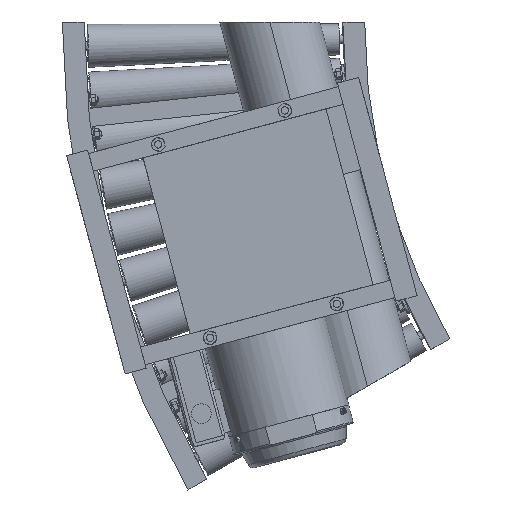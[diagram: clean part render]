
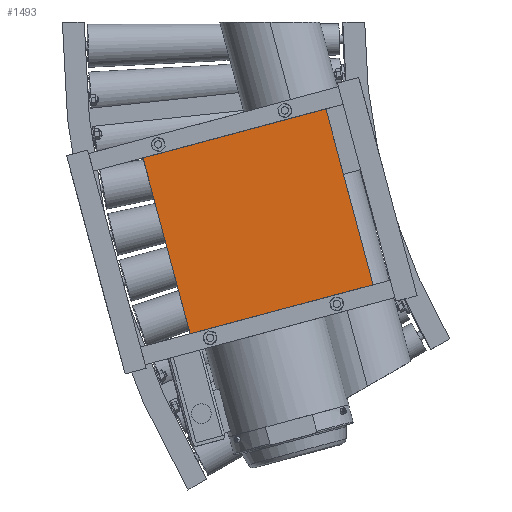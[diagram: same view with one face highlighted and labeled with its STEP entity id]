
A CAD part, front view. The second image highlights one B-rep face of the part: STEP entity #1493.
In plain terms, the highlighted planar face has unit normal (0, -1, 0).
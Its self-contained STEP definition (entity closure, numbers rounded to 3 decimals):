
#1493=ADVANCED_FACE('',(#5688),#5687,.T.);
#5687=PLANE('',#15078);
#5688=FACE_OUTER_BOUND('',#15079,.T.);
#15075=CARTESIAN_POINT('',(161.333,-304.8,-107.004));
#15076=DIRECTION('',(0.,-1.,0.));
#15077=DIRECTION('',(-0.966,0.,-0.259));
#15078=AXIS2_PLACEMENT_3D('',#15075,#15076,#15077);
#15079=EDGE_LOOP('',(#21290,#21291,#21292,#21293));
#21290=ORIENTED_EDGE('',*,*,#25743,.T.);
#21291=ORIENTED_EDGE('',*,*,#25901,.T.);
#21292=ORIENTED_EDGE('',*,*,#25767,.F.);
#21293=ORIENTED_EDGE('',*,*,#25902,.T.);
#25743=EDGE_CURVE('',#34114,#34107,#34115,.T.);
#25767=EDGE_CURVE('',#34264,#34251,#34271,.T.);
#25901=EDGE_CURVE('',#34107,#34251,#35158,.T.);
#25902=EDGE_CURVE('',#34264,#34114,#35164,.T.);
#34107=VERTEX_POINT('',#49365);
#34114=VERTEX_POINT('',#49369);
#34115=LINE('',#49370,#49371);
#34251=VERTEX_POINT('',#49446);
#34264=VERTEX_POINT('',#49453);
#34271=LINE('',#49457,#49458);
#35158=LINE('',#49981,#49982);
#35164=LINE('',#49984,#49985);
#49365=CARTESIAN_POINT('',(218.967,-304.8,-360.733));
#49369=CARTESIAN_POINT('',(-32.174,-304.8,-428.026));
#49370=CARTESIAN_POINT('',(-32.174,-304.8,-428.026));
#49371=VECTOR('',#49372,260.);
#49372=DIRECTION('',(0.966,0.,0.259));
#49446=CARTESIAN_POINT('',(154.262,-304.8,-119.251));
#49453=CARTESIAN_POINT('',(-96.878,-304.8,-186.544));
#49457=CARTESIAN_POINT('',(-96.878,-304.8,-186.544));
#49458=VECTOR('',#49459,260.);
#49459=DIRECTION('',(0.966,0.,0.259));
#49981=CARTESIAN_POINT('',(218.967,-304.8,-360.733));
#49982=VECTOR('',#49983,250.);
#49983=DIRECTION('',(-0.259,0.,0.966));
#49984=CARTESIAN_POINT('',(-96.878,-304.8,-186.544));
#49985=VECTOR('',#49986,250.);
#49986=DIRECTION('',(0.259,0.,-0.966));
